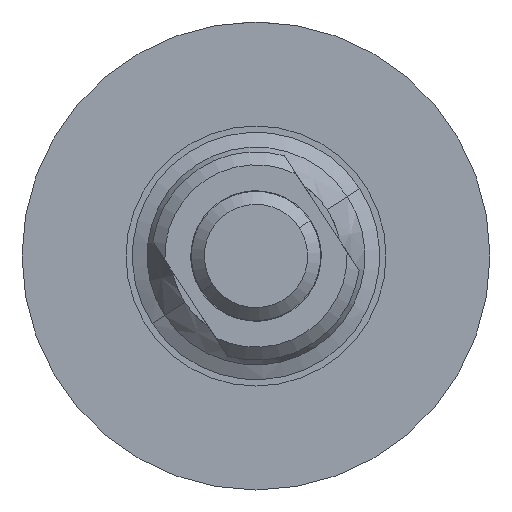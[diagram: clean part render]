
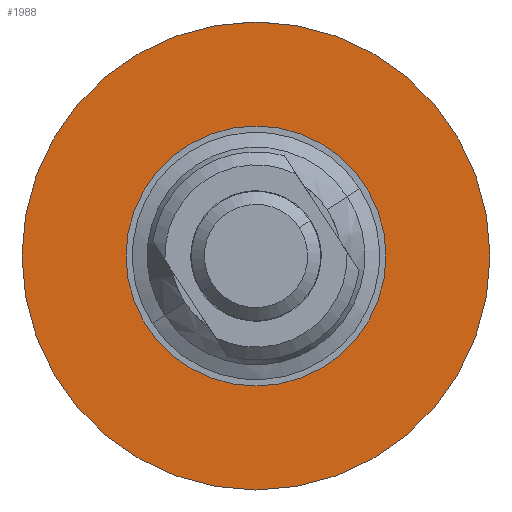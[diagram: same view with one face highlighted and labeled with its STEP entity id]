
A CAD part, front view. The second image highlights one B-rep face of the part: STEP entity #1988.
In plain terms, the highlighted planar face has unit normal (0, -1, 0).
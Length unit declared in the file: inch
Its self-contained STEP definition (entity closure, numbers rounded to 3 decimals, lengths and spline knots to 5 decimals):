
#26 = DIRECTION ( 'NONE',  ( 0., 0., -1. ) ) ;
#42 = DIRECTION ( 'NONE',  ( 0., -1., 0. ) ) ;
#93 = ORIENTED_EDGE ( 'NONE', *, *, #1293, .F. ) ;
#106 = DIRECTION ( 'NONE',  ( 0., -1., 0. ) ) ;
#240 = CIRCLE ( 'NONE', #828, 0.3125 ) ;
#329 = CARTESIAN_POINT ( 'NONE',  ( 0.7053, 0.10213, 1.28833 ) ) ;
#346 = CARTESIAN_POINT ( 'NONE',  ( 0.7053, 0.10213, 1.03833 ) ) ;
#352 = CIRCLE ( 'NONE', #406, 0.3125 ) ;
#404 = EDGE_CURVE ( 'NONE', #2421, #1545, #352, .T. ) ;
#406 = AXIS2_PLACEMENT_3D ( 'NONE', #1393, #42, #26 ) ;
#440 = CARTESIAN_POINT ( 'NONE',  ( 1.0178, 0.10213, 0.72583 ) ) ;
#450 = CARTESIAN_POINT ( 'NONE',  ( 0.7053, 0.10213, 0.41333 ) ) ;
#507 = CARTESIAN_POINT ( 'NONE',  ( 0.7053, 0.10213, 0.72583 ) ) ;
#647 = DIRECTION ( 'NONE',  ( 0., -1., 0. ) ) ;
#685 = VERTEX_POINT ( 'NONE', #329 ) ;
#711 = DIRECTION ( 'NONE',  ( 0., 0., -1. ) ) ;
#784 = AXIS2_PLACEMENT_3D ( 'NONE', #440, #647, #1960 ) ;
#828 = AXIS2_PLACEMENT_3D ( 'NONE', #1295, #106, #1461 ) ;
#835 = VERTEX_POINT ( 'NONE', #903 ) ;
#843 = AXIS2_PLACEMENT_3D ( 'NONE', #507, #1848, #711 ) ;
#903 = CARTESIAN_POINT ( 'NONE',  ( 0.7053, 0.10213, 0.16333 ) ) ;
#992 = CARTESIAN_POINT ( 'NONE',  ( 0.7053, 0.10213, 0.72583 ) ) ;
#1108 = FACE_OUTER_BOUND ( 'NONE', #1235, .T. ) ;
#1163 = ORIENTED_EDGE ( 'NONE', *, *, #1271, .T. ) ;
#1190 = DIRECTION ( 'NONE',  ( 0., 0., -1. ) ) ;
#1235 = EDGE_LOOP ( 'NONE', ( #1980, #1163 ) ) ;
#1271 = EDGE_CURVE ( 'NONE', #685, #835, #1842, .T. ) ;
#1293 = EDGE_CURVE ( 'NONE', #1545, #2421, #240, .T. ) ;
#1295 = CARTESIAN_POINT ( 'NONE',  ( 0.7053, 0.10213, 0.72583 ) ) ;
#1393 = CARTESIAN_POINT ( 'NONE',  ( 0.7053, 0.10213, 0.72583 ) ) ;
#1453 = FACE_BOUND ( 'NONE', #2354, .T. ) ;
#1461 = DIRECTION ( 'NONE',  ( 0., 0., -1. ) ) ;
#1545 = VERTEX_POINT ( 'NONE', #450 ) ;
#1589 = PLANE ( 'NONE',  #784 ) ;
#1618 = CIRCLE ( 'NONE', #2428, 0.5625 ) ;
#1666 = EDGE_CURVE ( 'NONE', #835, #685, #1618, .T. ) ;
#1842 = CIRCLE ( 'NONE', #843, 0.5625 ) ;
#1848 = DIRECTION ( 'NONE',  ( 0., -1., 0. ) ) ;
#1960 = DIRECTION ( 'NONE',  ( 0., 0., -1. ) ) ;
#1980 = ORIENTED_EDGE ( 'NONE', *, *, #1666, .T. ) ;
#1988 = ADVANCED_FACE ( 'NONE', ( #1108, #1453 ), #1589, .T. ) ;
#2302 = DIRECTION ( 'NONE',  ( 0., -1., 0. ) ) ;
#2354 = EDGE_LOOP ( 'NONE', ( #93, #2364 ) ) ;
#2364 = ORIENTED_EDGE ( 'NONE', *, *, #404, .F. ) ;
#2421 = VERTEX_POINT ( 'NONE', #346 ) ;
#2428 = AXIS2_PLACEMENT_3D ( 'NONE', #992, #2302, #1190 ) ;
